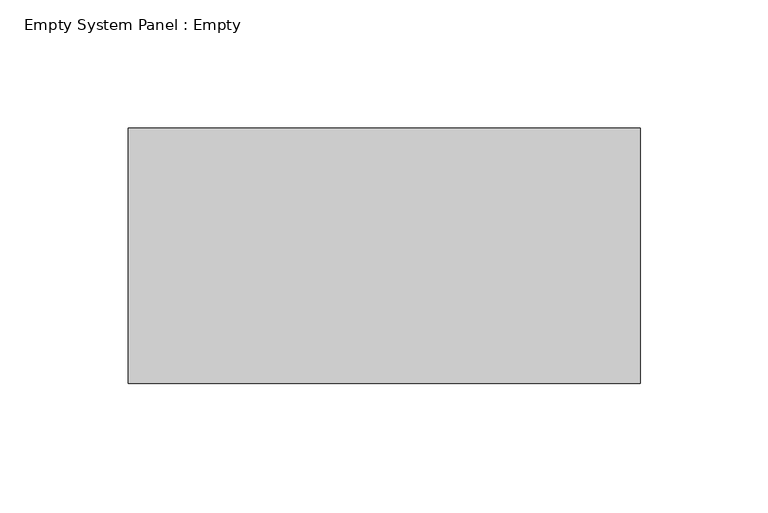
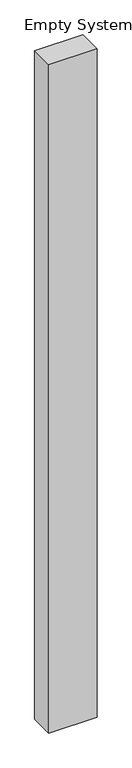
"""IFC4 building model written with IfcOpenShell, lengths in millimetres: plate geometry, Empty System Panel : Empty."""

from ifc_helpers import new_model, si_unit, origin, origin_with_axes, place, context, project, spatial, polyline, outline, extrude, source, transform, mapped, element, save


def empty_system_panel_empty_763ef950(model_context):
    return source(origin(), model_context, "Body", "SweptSolid", [
        extrude(outline(polyline([(100.0, -50.0), (-100.0, -50.0), (-100.0, 50.0), (100.0, 50.0), (100.0, -50.0)])), origin_with_axes(), (0.0, 0.0, 1.0), 2925.0),
    ])


if __name__ == "__main__":
    model = new_model("IFC4")
    model_context = context("Model", 3, world=origin())
    ifc_project = project(units=[si_unit("LENGTHUNIT", "METRE", prefix="MILLI")], contexts=[model_context])
    site = spatial("IfcSite", under=ifc_project)
    building = spatial("IfcBuilding", under=site)
    placement = place(None, origin())
    empty_system_panel_empty_shape = empty_system_panel_empty_763ef950(model_context)
    element("IfcPlate", 1, ObjectType="Empty System Panel : Empty", at=placement, inside=building, context=model_context, shape_type="MappedRepresentation", body=[
        mapped(empty_system_panel_empty_shape, transform((0.0, 0.0, 0.0), x_axis=(1.0, 0.0, 0.0), y_axis=(0.0, 1.0, 0.0), z_axis=(0.0, 0.0, 1.0))),
    ])
    save(model, "model.ifc")
